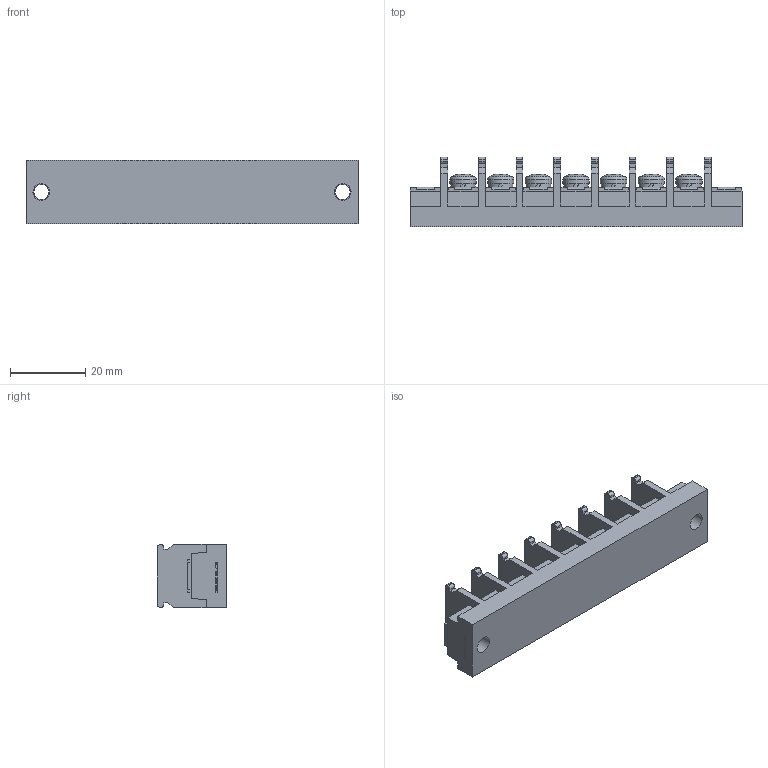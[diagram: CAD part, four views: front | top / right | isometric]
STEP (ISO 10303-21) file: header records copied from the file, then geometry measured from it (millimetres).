
FILE_DESCRIPTION(/* description */ ('Alibre Inc.'),/* implementation_level */ '2;1');
FILE_NAME(/* name */ 'export0',/* time_stamp */ '2015-10-14T19:52:12+09:00',/* author */ (''),/* organization */ (''),/* preprocessor_version */ 'ST-DEVELOPER v14',/* originating_system */ 'Alibre',/* authorisation */ '');
FILE_SCHEMA (('CONFIG_CONTROL_DESIGN'));
Length unit declared in the file: centimetre
Products named in the file (1): ID_1
Bounding box: 88.2 x 18.5 x 17 mm (x, y, z)
Volume: 15905.9 mm3; surface area: 9226.7 mm2
Topology: 1 solids, 17 shells, 878 faces, 2397 edges, 1591 vertices
Faces by surface type: plane 650, bspline 104, cylinder 75, cone 28, torus 14, sphere 7
Full cylindrical faces by diameter (mm): 4 x9, 4.5 x2, 6.5 x7, 7 x7
Entity records: 26874 total; most frequent: CARTESIAN_POINT 5948, ORIENTED_EDGE 4688, DIRECTION 3334, EDGE_CURVE 2344, VECTOR 1722, LINE 1722, VERTEX_POINT 1570, AXIS2_PLACEMENT_3D 1128
